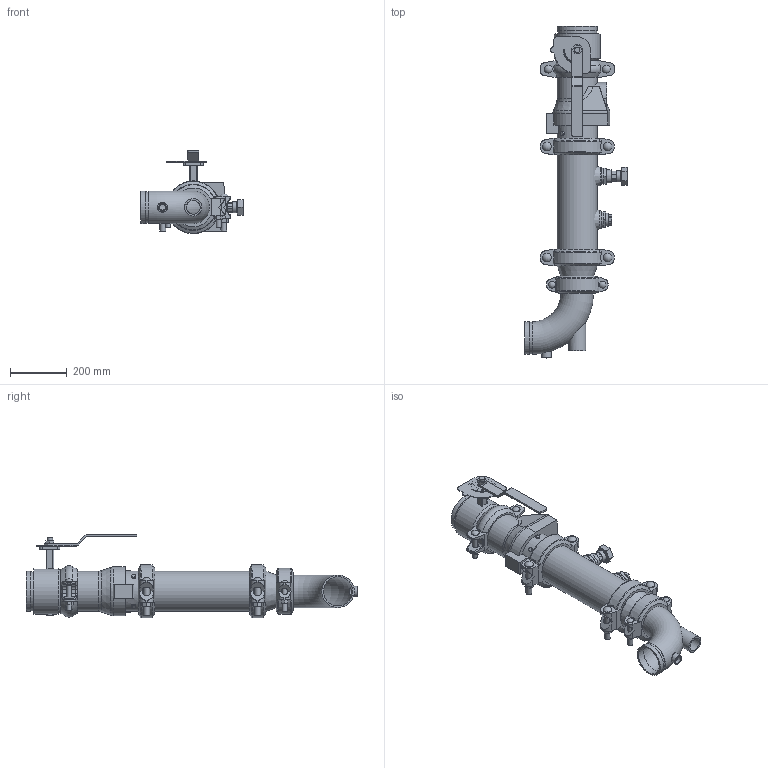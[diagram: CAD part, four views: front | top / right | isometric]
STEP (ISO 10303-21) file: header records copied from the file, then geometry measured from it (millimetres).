
FILE_DESCRIPTION(/* description */ ('VIC DVI PUMP DROP HORZ S/380G (OGSxOGS)','CAx-IF Rec.Pracs.---Representation and Presentation of Product Manufacturing Information (PMI)---4.0---2014-10-13'),/* implementation_level */ '2;1');
FILE_NAME(/* name */ 'C:\Users\kkamble\AppData\Roaming\Autodesk\ApplicationPlugins\Victaulic.Temp\A789\Victaulic_IPS_Horizontal DVI_CL 150_Series 380 (OGSxOGS)_924 (1.25)_05.0x04.0 (125x100).stp',/* time_stamp */ '2021-07-06T09:53:02+05:00',/* author */ ('Vjadhav'),/* organization */ ('Victaulic'),/* preprocessor_version */ 'ST-DEVELOPER v17.2',/* originating_system */ 'Autodesk Inventor 2019',/* authorisation */ '');
FILE_SCHEMA (('AP242_MANAGED_MODEL_BASED_3D_ENGINEERING_MIM_LF { 1 0 10303 442 1 1 4 }'));
Length unit declared in the file: inch
Products named in the file (11): 380_924 (1.25)-05.0x04.0; Pipe-05.0; 177N-05.0; 107N-05.0; 761-05.0; 924-04.0x01.25; 923-04.0x0.75; 779-05.0; 100G-04.0; 177N-04.0; 050-05.0x04.0
Assembly tree (11 placements, depth 2):
  380_924 (1.25)-05.0x04.0
    177N-05.0  x2
    Pipe-05.0
    107N-05.0
    761-05.0
    924-04.0x01.25
    923-04.0x0.75
    779-05.0
    100G-04.0
    177N-04.0
    050-05.0x04.0
Bounding box: 359.45 x 1165.22 x 293.24 mm (x, y, z)
Volume: 8601531.2 mm3; surface area: 1693432 mm2
Topology: 11 solids, 13 shells, 748 faces, 1960 edges, 1304 vertices
Faces by surface type: plane 408, cylinder 263, torus 27, cone 24, bspline 18, sphere 8
Full cylindrical faces by diameter (mm): 4.826 x10, 8.636 x4, 13.716 x4, 15.875 x4, 17.424 x2, 19.05 x2, 20.93 x1, 21.209 x4, 21.336 x1, 22.86 x1, 23.495 x2, 26.67 x4, 27.381 x2, 30.48 x4, 34.29 x1, 38.608 x1, 42.164 x1, 45.974 x4, 48.26 x1, 48.514 x1, 55.118 x1, 55.626 x2, 60.96 x1, 101.6 x1, 102.26 x3, 110.084 x3, 114.3 x6, 128.194 x4, 128.6 x3, 137.033 x7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
Entity records: 22839 total; most frequent: CARTESIAN_POINT 5128, DIRECTION 3617, ORIENTED_EDGE 3406, EDGE_CURVE 1703, AXIS2_PLACEMENT_3D 1363, VERTEX_POINT 1132, LINE 891, VECTOR 891
